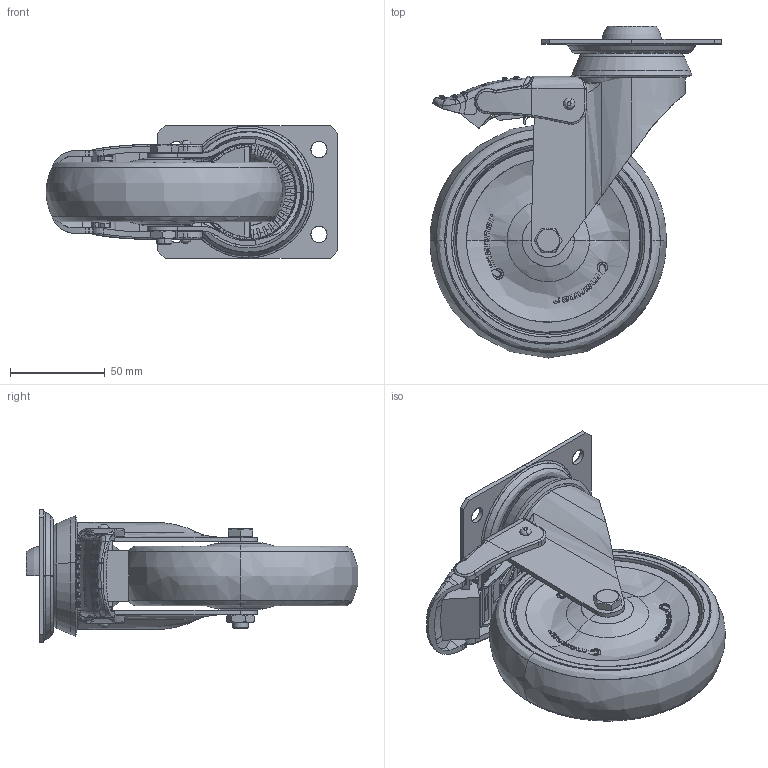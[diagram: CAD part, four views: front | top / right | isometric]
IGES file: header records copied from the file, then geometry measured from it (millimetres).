
Start section: SolidWorks IGES file using analytic representation for surfaces
Global section: file name: O:\ESI NP\IGES\300859_IGES.IGS; native system: SolidWorks 2011; preprocessor: SolidWorks 2011; author: MarkoLa; date: 130730.132751; units: millimetre
Bounding box: 153.75 x 174.84 x 70 mm (x, y, z)
Surface area: 185173.2 mm2 (no closed solid volume)
Topology: 0 solids, 0 shells, 2459 faces, 27263 edges, 27242 vertices
Faces by surface type: bspline 1776, revolution 683
